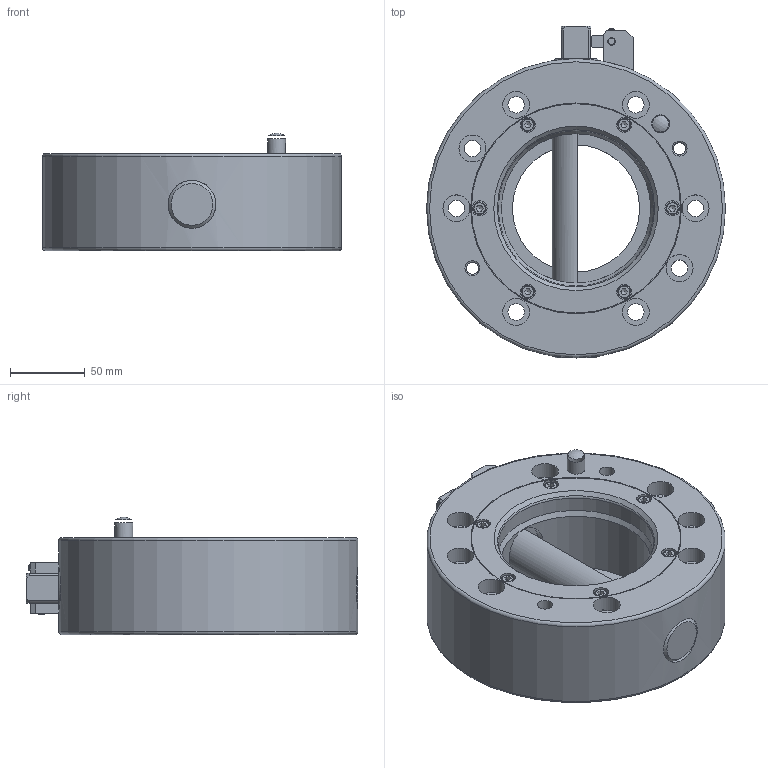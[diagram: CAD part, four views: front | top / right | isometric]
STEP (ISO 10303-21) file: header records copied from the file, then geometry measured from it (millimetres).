
FILE_DESCRIPTION(/* description */ (''),/* implementation_level */ '2;1');
FILE_NAME(/* name */ 'T:\G-SWS200-2O-N-BC01.stp',/* time_stamp */ '2022-05-25T10:53:16+02:00',/* author */ ('ysplieth'),/* organization */ (''),/* preprocessor_version */ 'ST-DEVELOPER v17',/* originating_system */ 'Autodesk Inventor 2018',/* authorisation */ '');
FILE_SCHEMA (('AUTOMOTIVE_DESIGN { 1 0 10303 214 3 1 1 }'));
Length unit declared in the file: millimetre
Products named in the file (1): Bauteil42
Bounding box: 200 x 222 x 78.53 mm (x, y, z)
Volume: 1505433.1 mm3; surface area: 172589.5 mm2
Topology: 2 solids, 13 shells, 360 faces, 997 edges, 687 vertices
Faces by surface type: plane 159, cylinder 115, cone 64, torus 20, sphere 2
Full cylindrical faces by diameter (mm): 3.242 x2, 3.3 x1, 4 x3, 4.134 x6, 4.5 x2, 5 x9, 5.1 x2, 5.5 x7, 6.647 x2, 6.75 x4, 7 x2, 8 x6, 8.5 x6, 9 x1, 10 x13, 11 x8, 12 x2, 18 x8, 32 x3, 85 x1, 100 x1, 104 x1, 120 x1, 140 x1, 141 x1, 200 x1
Entity records: 12849 total; most frequent: CARTESIAN_POINT 2938, DIRECTION 2071, ORIENTED_EDGE 1952, EDGE_CURVE 976, AXIS2_PLACEMENT_3D 849, VERTEX_POINT 687, CIRCLE 488, EDGE_LOOP 457
